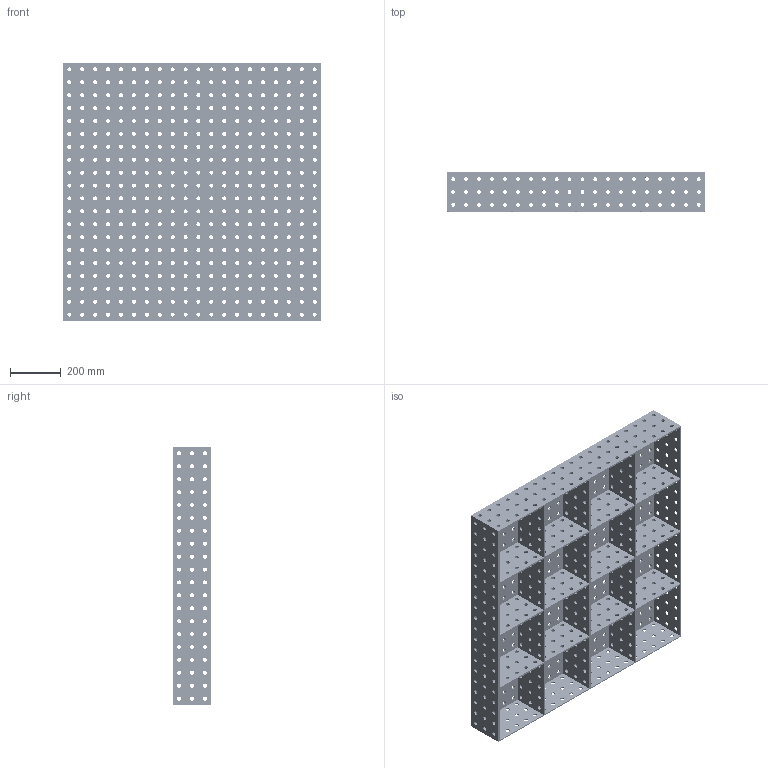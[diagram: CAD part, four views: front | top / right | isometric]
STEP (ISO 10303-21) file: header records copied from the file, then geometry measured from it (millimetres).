
FILE_DESCRIPTION (( 'STEP AP203' ), '1' );
FILE_NAME ('40x40.STEP', '2025-06-10T18:10:46', ( '' ), ( '' ), 'SwSTEP 2.0', 'SolidWorks 2023', '' );
FILE_SCHEMA (( 'CONFIG_CONTROL_DESIGN' ));
Length unit declared in the file: inch
Products named in the file (1): 40x40
Bounding box: 1016 x 152.4 x 1016 mm (x, y, z)
Volume: 14553097.4 mm3; surface area: 4900862.3 mm2
Topology: 1 solids, 1 shells, 2086 faces, 6204 edges, 4136 vertices
Faces by surface type: cylinder 2000, plane 86
Entity records: 76507 total; most frequent: DIRECTION 14378, CARTESIAN_POINT 12427, ORIENTED_EDGE 12408, EDGE_CURVE 6204, AXIS2_PLACEMENT_3D 6087, VERTEX_POINT 4136, EDGE_LOOP 4102, CIRCLE 4000
